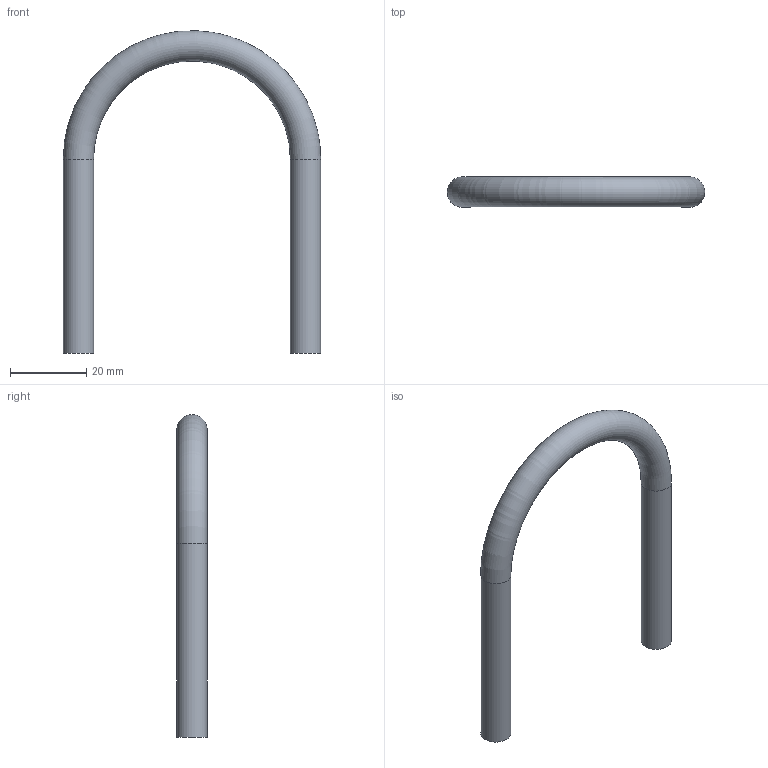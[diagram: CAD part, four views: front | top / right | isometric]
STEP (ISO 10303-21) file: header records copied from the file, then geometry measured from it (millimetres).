
FILE_DESCRIPTION(/* description */ ('STEP AP242','CAx-IF Rec.Pracs.---Representation and Presentation of Product Manufacturing Information (PMI)---4.0---2014-10-13','CAx-IF Rec.Pracs.---3D Tessellated Geometry---0.4---2014-09-14','2;1'),/* implementation_level */ '2;1');
FILE_NAME(/* name */ '67648109d010456458e325d9',/* time_stamp */ '2024-12-19T20:24:44Z',/* author */ (''),/* organization */ (''),/* preprocessor_version */ 'ST-DEVELOPER v20',/* originating_system */ 'ONSHAPE BY PTC INC, 1.191',/* authorisation */ ' ');
FILE_SCHEMA (('AP242_MANAGED_MODEL_BASED_3D_ENGINEERING_MIM_LF { 1 0 10303 442 1 1 4 }'));
Length unit declared in the file: metre
Products named in the file (2): Part 1; Part 2
Bounding box: 67.47 x 7.94 x 84.52 mm (x, y, z)
Volume: 19309.5 mm3; surface area: 9928.7 mm2
Topology: 2 solids, 2 shells, 10 faces, 14 edges, 8 vertices
Faces by surface type: cylinder 4, plane 4, torus 2
Full cylindrical faces by diameter (mm): 7.938 x4
Entity records: 232 total; most frequent: DIRECTION 40, CARTESIAN_POINT 28, AXIS2_PLACEMENT_3D 20, ORIENTED_EDGE 16, EDGE_LOOP 16, FACE_BOUND 16, ADVANCED_FACE 10, EDGE_CURVE 8
